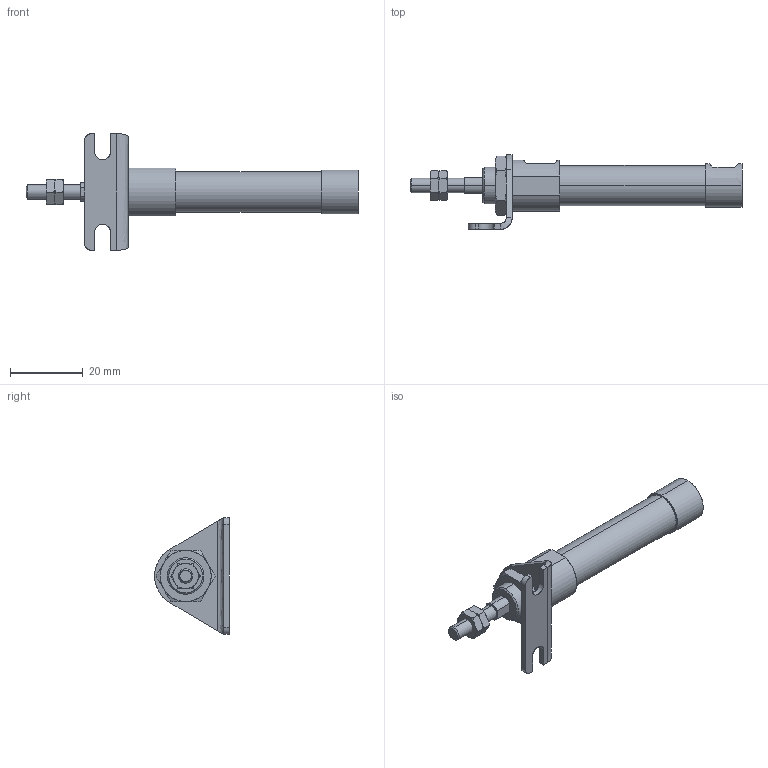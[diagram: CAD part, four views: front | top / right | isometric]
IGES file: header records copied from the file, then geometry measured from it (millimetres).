
Start section: SolidWorks IGES file using analytic representation for surfaces
Global section: file name: C:\Users\Toshiba\Desktop\ZGU2-10-15-L.IGS; native system: SolidWorks 2014; preprocessor: SolidWorks 2014; author: Toshiba; date: 160331.085042; units: millimetre
Bounding box: 91 x 20.5 x 32 mm (x, y, z)
Surface area: 5518.2 mm2 (no closed solid volume)
Topology: 0 solids, 0 shells, 134 faces, 1934 edges, 1930 vertices
Faces by surface type: bspline 94, revolution 40
